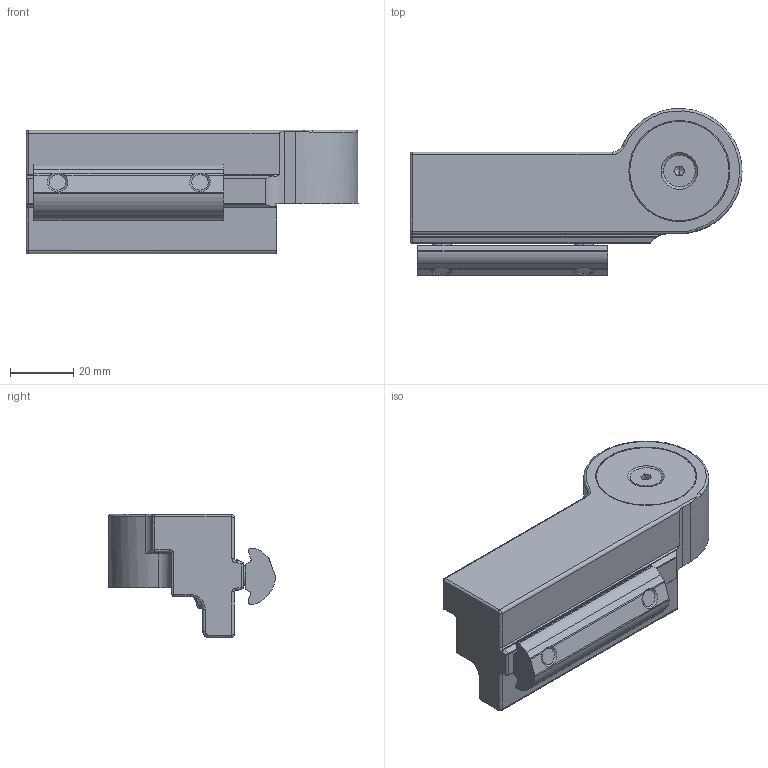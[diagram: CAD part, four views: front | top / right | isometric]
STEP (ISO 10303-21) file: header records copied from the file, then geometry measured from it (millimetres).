
FILE_DESCRIPTION (( 'STEP AP214' ), '1' );
FILE_NAME ('40mm Pivot Bracket - Offset Profile Mount Bearing Side(40MPI-0411-001-00).STEP', '2023-08-30T16:44:37', ( '' ), ( '' ), 'SwSTEP 2.0', 'SolidWorks 2020', '' );
FILE_SCHEMA (( 'AUTOMOTIVE_DESIGN' ));
Length unit declared in the file: millimetre
Products named in the file (1): 40mm Pivot Bracket - Offset Profile Mount Bearing Side(40MPI-0411-001-00)
Bounding box: 105 x 52.79 x 39 mm (x, y, z)
Volume: 83245 mm3; surface area: 29401 mm2
Topology: 9 solids, 9 shells, 305 faces, 719 edges, 431 vertices
Faces by surface type: cylinder 119, plane 81, torus 46, cone 38, bspline 20, sphere 1
Entity records: 9948 total; most frequent: CARTESIAN_POINT 2852, DIRECTION 1489, ORIENTED_EDGE 1422, EDGE_CURVE 711, AXIS2_PLACEMENT_3D 600, VERTEX_POINT 431, EDGE_LOOP 332, CIRCLE 314
